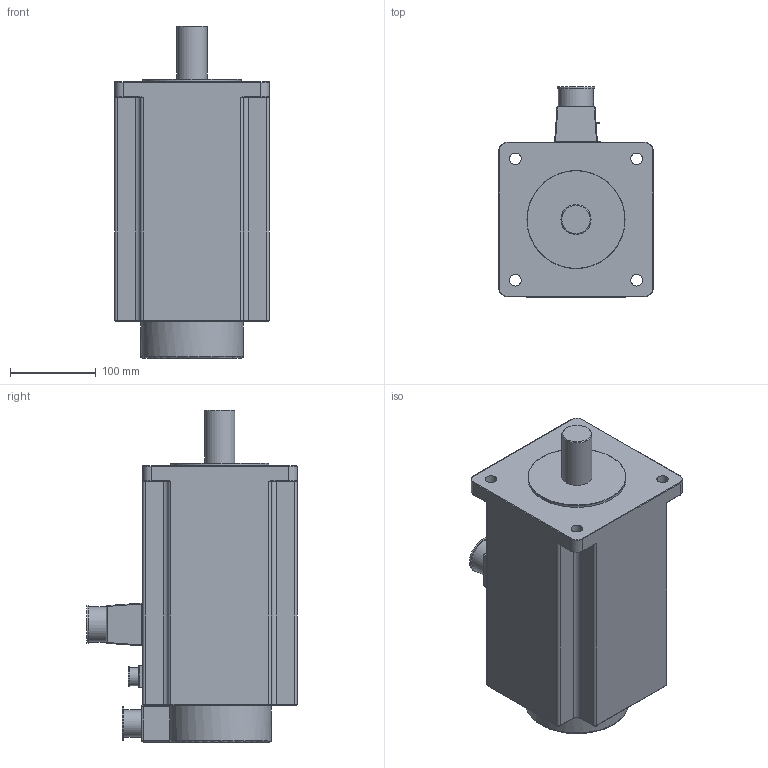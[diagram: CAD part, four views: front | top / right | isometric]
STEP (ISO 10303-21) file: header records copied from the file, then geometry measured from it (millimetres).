
FILE_DESCRIPTION(/* description */ (''),/* implementation_level */ '2;1');
FILE_NAME(/* name */ '180MAH27015 - FZ.stp',/* time_stamp */ '2019-11-22T13:56:37+08:00',/* author */ (''),/* organization */ (''),/* preprocessor_version */ 'ST-DEVELOPER v16',/* originating_system */ 'SIEMENS PLM Software NX 10.0',/* authorisation */ '');
FILE_SCHEMA (('CONFIG_CONTROL_DESIGN'));
Length unit declared in the file: millimetre
Products named in the file (1): 180MAH27015 - FZ
Bounding box: 180 x 245 x 387.01 mm (x, y, z)
Volume: 8882475.1 mm3; surface area: 305407.6 mm2
Topology: 1 solids, 1 shells, 195 faces, 441 edges, 244 vertices
Faces by surface type: cylinder 92, plane 41, torus 37, bspline 12, sphere 11, cone 2
Full cylindrical faces by diameter (mm): 13.5 x4, 21 x1, 23 x1, 32 x1, 35 x1, 39 x1, 41 x1, 44 x1, 114.3 x1
Entity records: 5419 total; most frequent: CARTESIAN_POINT 1097, DIRECTION 973, ORIENTED_EDGE 810, AXIS2_PLACEMENT_3D 406, EDGE_CURVE 405, VERTEX_POINT 238, EDGE_LOOP 229, CIRCLE 212
